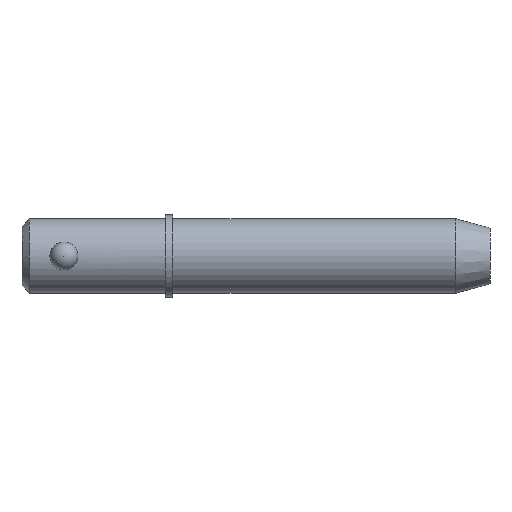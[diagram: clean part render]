
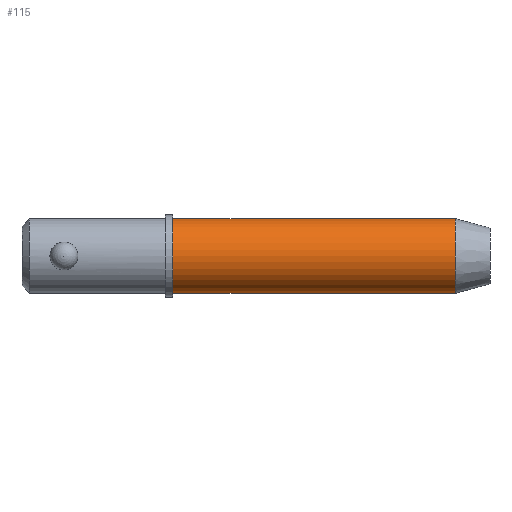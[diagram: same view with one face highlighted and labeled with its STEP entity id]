
A CAD part, front view. The second image highlights one B-rep face of the part: STEP entity #115.
In plain terms, the highlighted cylindrical face has radius 6.35 mm (diameter 12.7 mm), a partial arc.
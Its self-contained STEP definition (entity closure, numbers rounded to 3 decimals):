
#12 = ORIENTED_EDGE ( 'NONE', *, *, #886, .F. ) ;
#21 = EDGE_LOOP ( 'NONE', ( #12, #908, #813, #532 ) ) ;
#92 = DIRECTION ( 'NONE',  ( 1., 0., 0. ) ) ;
#115 = ADVANCED_FACE ( 'NONE', ( #715 ), #558, .T. ) ;
#117 = VECTOR ( 'NONE', #636, 1000. ) ;
#139 = CARTESIAN_POINT ( 'NONE',  ( 73.755, 0., 6.35 ) ) ;
#231 = DIRECTION ( 'NONE',  ( 0., 0., -1. ) ) ;
#235 = CIRCLE ( 'NONE', #643, 6.35 ) ;
#306 = DIRECTION ( 'NONE',  ( 0., 0., -1. ) ) ;
#323 = DIRECTION ( 'NONE',  ( 1., 0., 0. ) ) ;
#328 = DIRECTION ( 'NONE',  ( 1., 0., 0. ) ) ;
#336 = EDGE_CURVE ( 'NONE', #921, #489, #856, .T. ) ;
#392 = CARTESIAN_POINT ( 'NONE',  ( 0., 0., -6.35 ) ) ;
#462 = VECTOR ( 'NONE', #328, 1000. ) ;
#463 = DIRECTION ( 'NONE',  ( 1., 0., 0. ) ) ;
#489 = VERTEX_POINT ( 'NONE', #1045 ) ;
#500 = CARTESIAN_POINT ( 'NONE',  ( 0., 0., 6.35 ) ) ;
#532 = ORIENTED_EDGE ( 'NONE', *, *, #851, .F. ) ;
#558 = CYLINDRICAL_SURFACE ( 'NONE', #589, 6.35 ) ;
#589 = AXIS2_PLACEMENT_3D ( 'NONE', #637, #92, #306 ) ;
#617 = DIRECTION ( 'NONE',  ( 0., 0., -1. ) ) ;
#630 = CARTESIAN_POINT ( 'NONE',  ( 25.7, 0., 0. ) ) ;
#636 = DIRECTION ( 'NONE',  ( 1., 0., 0. ) ) ;
#637 = CARTESIAN_POINT ( 'NONE',  ( 0., 0., 0. ) ) ;
#639 = CARTESIAN_POINT ( 'NONE',  ( 25.7, 0., 6.35 ) ) ;
#643 = AXIS2_PLACEMENT_3D ( 'NONE', #931, #323, #231 ) ;
#715 = FACE_OUTER_BOUND ( 'NONE', #21, .T. ) ;
#730 = CARTESIAN_POINT ( 'NONE',  ( 25.7, 0., -6.35 ) ) ;
#733 = EDGE_CURVE ( 'NONE', #1013, #921, #925, .T. ) ;
#773 = VERTEX_POINT ( 'NONE', #139 ) ;
#808 = AXIS2_PLACEMENT_3D ( 'NONE', #630, #463, #617 ) ;
#813 = ORIENTED_EDGE ( 'NONE', *, *, #336, .T. ) ;
#851 = EDGE_CURVE ( 'NONE', #773, #489, #235, .T. ) ;
#856 = LINE ( 'NONE', #392, #117 ) ;
#874 = LINE ( 'NONE', #500, #462 ) ;
#886 = EDGE_CURVE ( 'NONE', #1013, #773, #874, .T. ) ;
#908 = ORIENTED_EDGE ( 'NONE', *, *, #733, .T. ) ;
#921 = VERTEX_POINT ( 'NONE', #730 ) ;
#925 = CIRCLE ( 'NONE', #808, 6.35 ) ;
#931 = CARTESIAN_POINT ( 'NONE',  ( 73.755, 0., 0. ) ) ;
#1013 = VERTEX_POINT ( 'NONE', #639 ) ;
#1045 = CARTESIAN_POINT ( 'NONE',  ( 73.755, 0., -6.35 ) ) ;
